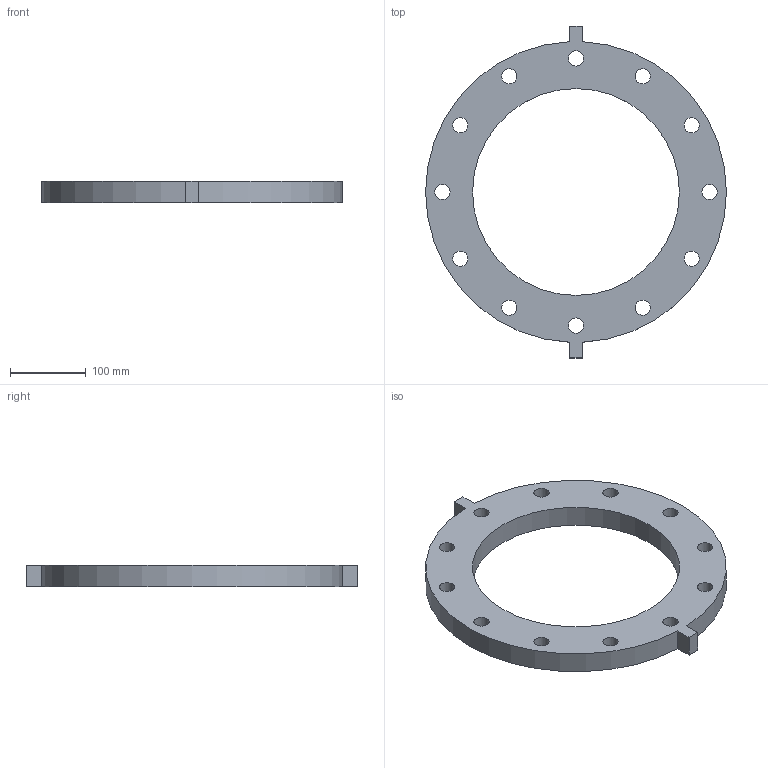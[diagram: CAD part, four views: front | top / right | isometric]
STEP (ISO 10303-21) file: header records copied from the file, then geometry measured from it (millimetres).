
FILE_DESCRIPTION(/* description */ ('VIC FLANGE ADAPTER STYLE 741 PN10 Flanges','CAx-IF Rec.Pracs.---Representation and Presentation of Product Manufacturing Information (PMI)---4.0---2014-10-13'),/* implementation_level */ '2;1');
FILE_NAME(/* name */ 'C:\Users\kkamble\AppData\Roaming\Autodesk\ApplicationPlugins\Back Up\Victaulic_IPS_Flange Adapter_PN10_Style 741 (OGSxFLG)\Victaulic_IPS_Flange Adapter_PN10_Style 741 (OGSxFLG)_10 (250).stp',/* time_stamp */ '2020-07-24T08:16:19+06:00',/* author */ ('jheald'),/* organization */ ('Victaulic'),/* preprocessor_version */ 'ST-DEVELOPER v17.2',/* originating_system */ 'Autodesk Inventor 2019',/* authorisation */ '');
FILE_SCHEMA (('AP242_MANAGED_MODEL_BASED_3D_ENGINEERING_MIM_LF { 1 0 10303 442 1 1 4 }'));
Length unit declared in the file: inch
Products named in the file (1): 741-10.0
Bounding box: 397 x 438.15 x 28.7 mm (x, y, z)
Volume: 1782582.4 mm3; surface area: 208724.8 mm2
Topology: 1 solids, 1 shells, 23 faces, 63 edges, 42 vertices
Faces by surface type: cylinder 15, plane 8
Full cylindrical faces by diameter (mm): 20.066 x12, 273.05 x1
Entity records: 863 total; most frequent: DIRECTION 141, CARTESIAN_POINT 129, ORIENTED_EDGE 126, EDGE_CURVE 63, AXIS2_PLACEMENT_3D 54, EDGE_LOOP 49, VERTEX_POINT 42, LINE 33
